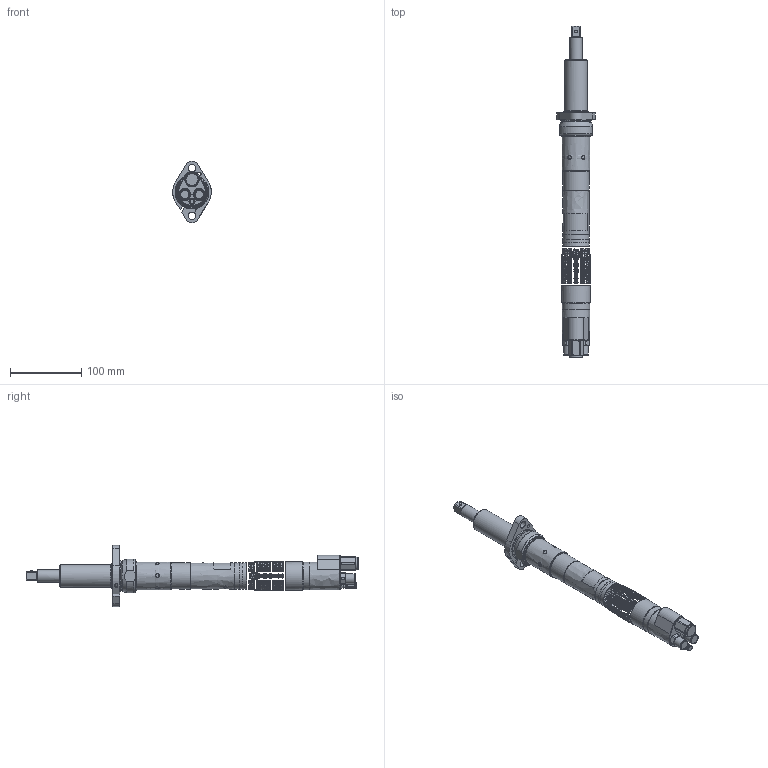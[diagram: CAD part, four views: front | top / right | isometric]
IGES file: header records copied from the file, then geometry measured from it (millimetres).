
Global section: file name: C:\Users\cccpab\Desktop\QA4ASRS046NF41S08.igs; native system: NX V4.0; preprocessor: UGS NX IGES V4.0; date: 20170302.120606; units: millimetre
Bounding box: 53.95 x 464.98 x 85.7 mm (x, y, z)
Surface area: 68716.2 mm2 (no closed solid volume)
Topology: 0 solids, 0 shells, 2567 faces, 15764 edges, 15678 vertices
Faces by surface type: bspline 2567
